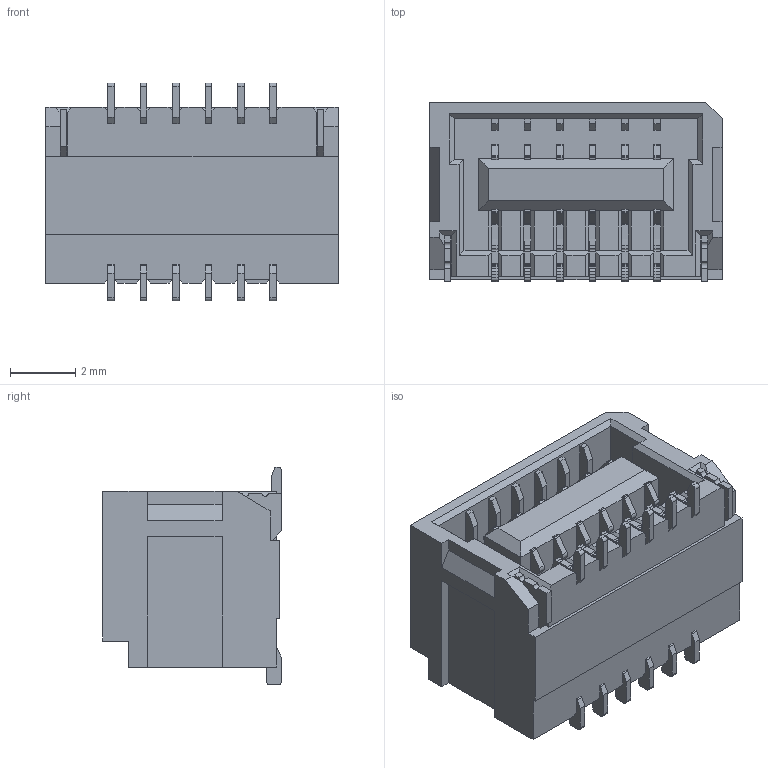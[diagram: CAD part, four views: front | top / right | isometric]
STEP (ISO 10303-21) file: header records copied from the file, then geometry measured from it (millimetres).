
FILE_DESCRIPTION((''),'2;1');
FILE_NAME('S-50487-012XX-XXX','2022-07-20T',('d37380'),(''),'CREO PARAMETRIC BY PTC INC, 2014500','CREO PARAMETRIC BY PTC INC, 2014500','');
FILE_SCHEMA(('CONFIG_CONTROL_DESIGN'));
Length unit declared in the file: millimetre
Products named in the file (1): S-50487-012XX-XXX
Bounding box: 8.99 x 5.5 x 6.7 mm (x, y, z)
Volume: 197.1 mm3; surface area: 420.5 mm2
Topology: 1 solids, 1 shells, 812 faces, 2384 edges, 1581 vertices
Faces by surface type: plane 664, cylinder 148
Entity records: 26609 total; most frequent: CARTESIAN_POINT 4722, ORIENTED_EDGE 4656, DIRECTION 4358, EDGE_CURVE 2328, VECTOR 2036, LINE 2036, VERTEX_POINT 1525, AXIS2_PLACEMENT_3D 1161
